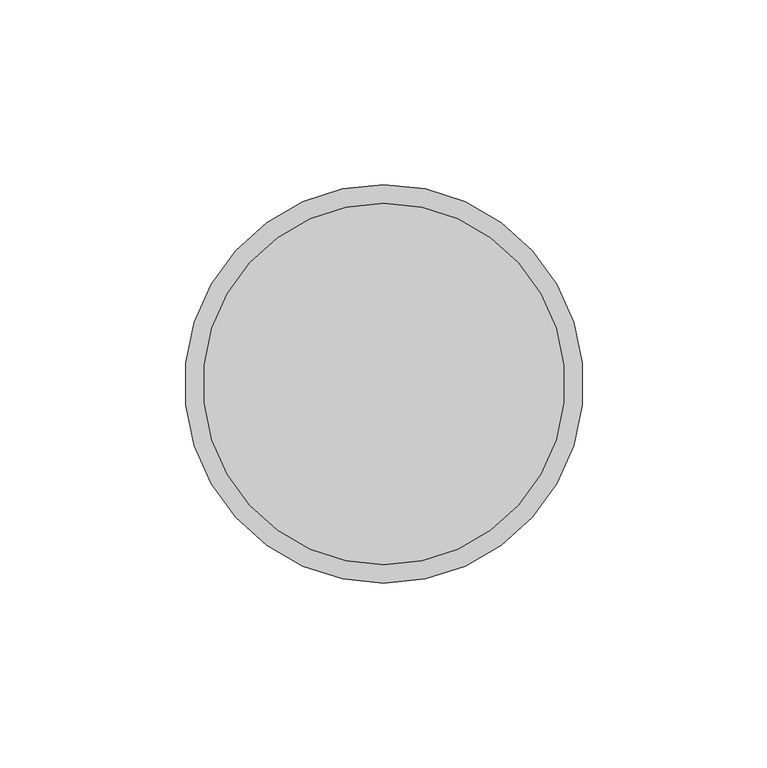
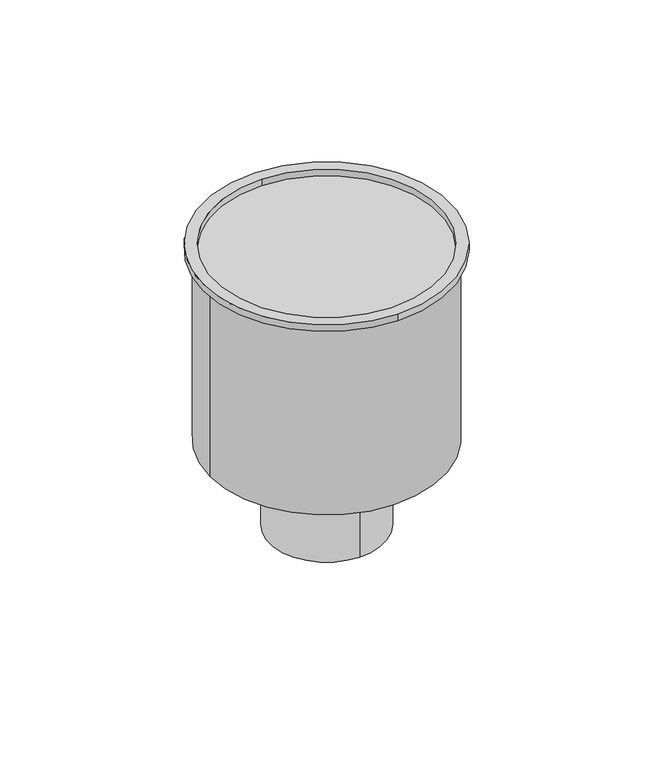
"""IFC4 building model written with IfcOpenShell, lengths in millimetres: sanitary terminal geometry, Z_DO_NOT_USE_NLRS_PF_52_UN_Multi sifon uitloop_Easydrain : onderuitloop 50mm."""

from ifc_helpers import new_model, si_unit, frame, origin, place, context, project, spatial, polyline, circle_curve, source, transform, mapped, element, save
from ifc_brep_helpers import plane_surface, cylinder_surface, revolved_surface, advanced_brep


def sanitary_terminal_49c4bee3(model_context):
    return source(origin(), model_context, "Body", "AdvancedBrep", [
        advanced_brep(
        [(-51.0, 0.0, -90.0), (51.0, 0.0, -90.0), (0.0, 25.0, -90.0), (0.0, -25.0, -90.0), (0.0, 49.0, -3.0), (0.0, -49.0, -3.0), (51.0, 0.0, -3.0), (-51.0, 0.0, -3.0), (0.0, -25.0, -130.0), (0.0, 25.0, -130.0), (0.0, -54.0, 0.0), (0.0, 54.0, 0.0), (0.0, 54.0, -3.0), (0.0, -54.0, -3.0), (0.0, 49.0, 0.0), (0.0, -49.0, 0.0)],
        [
            (0, 1, circle_curve(frame((0.0, 0.0, -90.0), z_axis=(0.0, 0.0, -1.0), x_axis=(1.0, 0.0, 0.0)), 51.0)),
            (1, 0, circle_curve(frame((0.0, 0.0, -90.0), z_axis=(0.0, 0.0, -1.0), x_axis=(1.0, 0.0, 0.0)), 51.0)),
            (2, 3, circle_curve(frame((0.0, 0.0, -90.0), z_axis=(0.0, 0.0, 1.0), x_axis=(0.0, 1.0, 0.0)), 25.0)),
            (3, 2, circle_curve(frame((0.0, 0.0, -90.0), z_axis=(0.0, 0.0, 1.0), x_axis=(0.0, 1.0, 0.0)), 25.0)),
            (4, 5, circle_curve(frame((0.0, 0.0, -3.0), z_axis=(0.0, 0.0, 1.0), x_axis=(0.0, 1.0, 0.0)), 49.0)),
            (5, 4, circle_curve(frame((0.0, 0.0, -3.0), z_axis=(0.0, 0.0, 1.0), x_axis=(0.0, -1.0, 0.0)), 49.0)),
            (1, 6),
            (6, 7, circle_curve(frame((0.0, 0.0, -3.0), z_axis=(0.0, 0.0, -1.0), x_axis=(1.0, 0.0, 0.0)), 51.0)),
            (7, 0),
            (7, 6, circle_curve(frame((0.0, 0.0, -3.0), z_axis=(0.0, 0.0, -1.0), x_axis=(1.0, 0.0, 0.0)), 51.0)),
            (8, 9, circle_curve(frame((0.0, 0.0, -130.0), z_axis=(0.0, 0.0, -1.0), x_axis=(0.0, 1.0, 0.0)), 25.0)),
            (9, 8, circle_curve(frame((0.0, 0.0, -130.0), z_axis=(0.0, 0.0, -1.0), x_axis=(0.0, 1.0, 0.0)), 25.0)),
            (8, 3),
            (2, 9),
            (10, 11, circle_curve(frame((0.0, 0.0, 0.0), z_axis=(0.0, 0.0, -1.0), x_axis=(0.0, 1.0, 0.0)), 54.0)),
            (11, 12),
            (12, 13, circle_curve(frame((0.0, 0.0, -3.0), z_axis=(0.0, 0.0, 1.0), x_axis=(0.0, 1.0, 0.0)), 54.0)),
            (13, 10),
            (4, 14),
            (14, 15, circle_curve(frame((0.0, 0.0, 0.0), z_axis=(0.0, 0.0, 1.0), x_axis=(0.0, 1.0, 0.0)), 49.0)),
            (15, 5),
            (11, 10, circle_curve(frame((0.0, 0.0, 0.0), z_axis=(0.0, 0.0, -1.0), x_axis=(0.0, -1.0, 0.0)), 54.0)),
            (13, 12, circle_curve(frame((0.0, 0.0, -3.0), z_axis=(0.0, 0.0, 1.0), x_axis=(0.0, -1.0, 0.0)), 54.0)),
            (14, 15, circle_curve(frame((0.0, 0.0, 0.0), z_axis=(0.0, 0.0, -1.0), x_axis=(0.0, -1.0, 0.0)), 49.0)),
        ],
        [
            plane_surface(frame((51.0, 0.0, -90.0), z_axis=(0.0, 0.0, -1.0), x_axis=(0.0, -1.0, 0.0))),
            plane_surface(frame((51.0, 0.0, -3.0), z_axis=(0.0, 0.0, 1.0), x_axis=(0.0, 1.0, 0.0))),
            cylinder_surface(frame((0.0, 0.0, -90.0), z_axis=(0.0, 0.0, 1.0), x_axis=(1.0, 0.0, 0.0)), 51.0),
            plane_surface(frame((0.0, 0.0, -130.0), z_axis=(0.0, 0.0, -1.0), x_axis=(-1.0, 0.0, 0.0))),
            cylinder_surface(frame((0.0, 0.0, -130.0), z_axis=(0.0, 0.0, -1.0), x_axis=(0.0, 1.0, 0.0)), 25.0),
            cylinder_surface(frame((0.0, 0.0, -3.0), z_axis=(0.0, 0.0, 1.0), x_axis=(0.0, 1.0, 0.0)), 54.0),
            revolved_surface(polyline([(0.0, 49.0, 0.0), (0.0, 49.0, -3.0)]), (0.0, 0.0, -3.0), (0.0, 0.0, 1.0)),
            cylinder_surface(frame((0.0, 0.0, -3.0), z_axis=(0.0, 0.0, 1.0), x_axis=(0.0, -1.0, 0.0)), 54.0),
            plane_surface(frame((0.0, 0.0, 0.0), z_axis=(0.0, 0.0, 1.0), x_axis=(0.0, -1.0, 0.0))),
            revolved_surface(polyline([(0.0, -49.0, 0.0), (0.0, -49.0, -3.0)]), (0.0, 0.0, -3.0), (0.0, 0.0, 1.0)),
            plane_surface(frame((0.0, 0.0, -3.0), z_axis=(0.0, 0.0, -1.0), x_axis=(0.0, -1.0, 0.0))),
        ],
        [
            (0, [[1, 2], [3, 4]]),
            (1, [[5, 6]]),
            (2, [[-2, 7, 8, 9]]),
            (2, [[-1, -9, 10, -7]]),
            (3, [[11, 12]]),
            (4, [[-11, 13, -3, 14]]),
            (4, [[-12, -14, -4, -13]]),
            (5, [[15, 16, 17, 18]]),
            (6, [[-5, 19, 20, 21]]),
            (7, [[-16, 22, -18, 23]]),
            (8, [[-15, -22], [-20, 24]]),
            (9, [[-6, -21, -24, -19]]),
            (10, [[-17, -23], [-8, -10]]),
        ],
    ),
    ])


if __name__ == "__main__":
    model = new_model("IFC4")
    model_context = context("Model", 3, world=origin())
    ifc_project = project(units=[si_unit("LENGTHUNIT", "METRE", prefix="MILLI")], contexts=[model_context])
    site = spatial("IfcSite", under=ifc_project)
    building = spatial("IfcBuilding", under=site)
    placement = place(None, origin())
    sanitary_terminal_shape = sanitary_terminal_49c4bee3(model_context)
    element("IfcSanitaryTerminal", 1, ObjectType="Z_DO_NOT_USE_NLRS_PF_52_UN_Multi sifon uitloop_Easydrain : onderuitloop 50mm", at=placement, inside=building, context=model_context, shape_type="MappedRepresentation", body=[
        mapped(sanitary_terminal_shape, transform((0.0, 0.0, 0.0), x_axis=(1.0, 0.0, 0.0), y_axis=(0.0, 1.0, 0.0), z_axis=(0.0, 0.0, 1.0))),
    ])
    save(model, "model.ifc")
